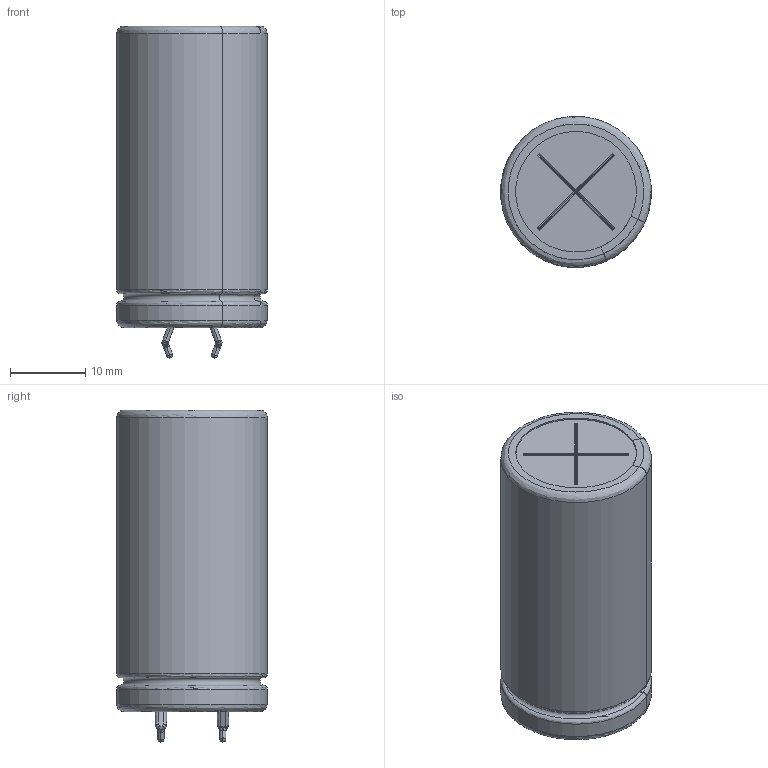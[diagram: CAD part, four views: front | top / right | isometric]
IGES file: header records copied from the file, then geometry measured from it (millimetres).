
Start section: JAMA-IS VERSION  1.0
Bounding box: 19.94 x 19.94 x 44.02 mm (x, y, z)
Surface area: 8705.8 mm2 (no closed solid volume)
Topology: 0 solids, 0 shells, 208 faces, 2162 edges, 2126 vertices
Faces by surface type: bspline 208
